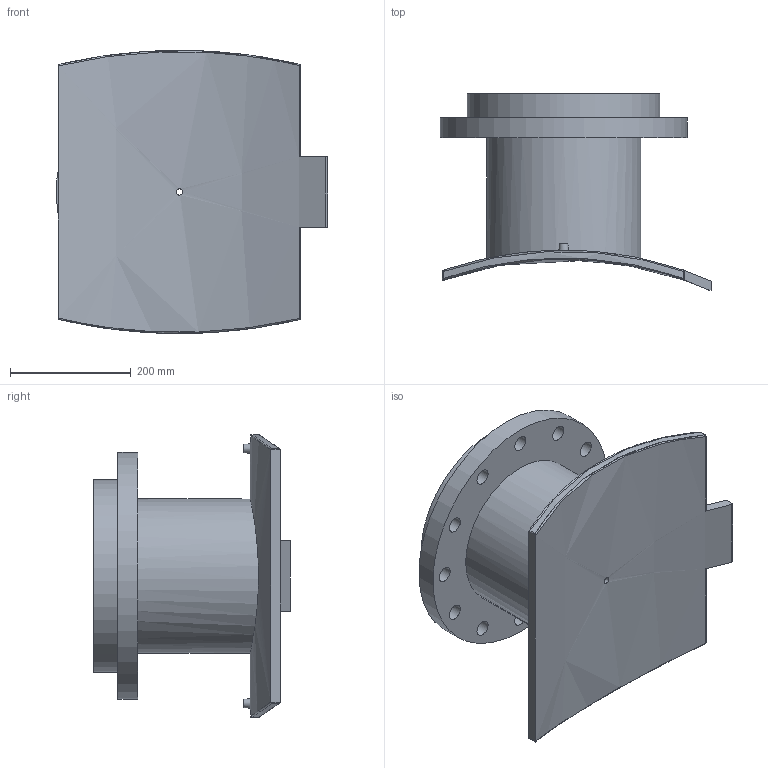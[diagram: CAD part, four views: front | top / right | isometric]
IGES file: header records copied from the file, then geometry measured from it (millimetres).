
Global section: file name: 4959031200250T; native system: Autodesk Inventor 2019; preprocessor: unknown; author: KIM; date: 20240403.210426; units: millimetre
Bounding box: 450.66 x 326.28 x 469.52 mm (x, y, z)
Volume: 11493528.7 mm3; surface area: 1015719.4 mm2
Topology: 1 solids, 1 shells, 62 faces, 163 edges, 126 vertices
Faces by surface type: bspline 62
